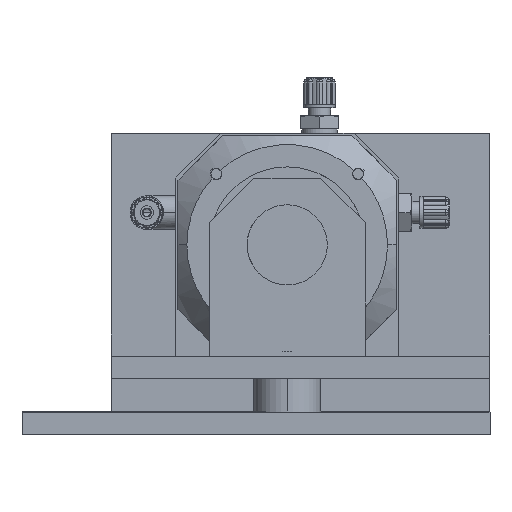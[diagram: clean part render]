
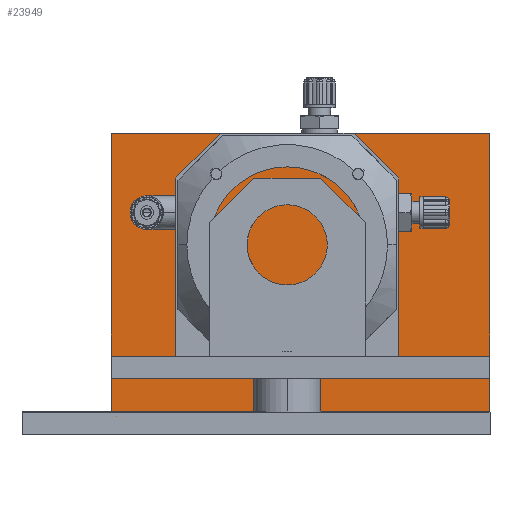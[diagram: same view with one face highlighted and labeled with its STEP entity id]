
A CAD part, left-side view. The second image highlights one B-rep face of the part: STEP entity #23949.
In plain terms, the highlighted planar face has unit normal (-1, 0, 0) as drawn and (0, -1, 0) by its records, which use the part's own axes.
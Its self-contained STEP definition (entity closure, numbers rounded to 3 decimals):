
#474 = CARTESIAN_POINT ( 'NONE',  ( 0., 0., 0. ) ) ;
#1717 = EDGE_CURVE ( 'NONE', #111293, #3110, #155261, .T. ) ;
#3110 = VERTEX_POINT ( 'NONE', #474 ) ;
#5024 = VECTOR ( 'NONE', #140284, 1000. ) ;
#9661 = ORIENTED_EDGE ( 'NONE', *, *, #150560, .F. ) ;
#22308 = PLANE ( 'NONE',  #138970 ) ;
#23182 = DIRECTION ( 'NONE',  ( 0., 0., -1. ) ) ;
#23949 = ADVANCED_FACE ( 'NONE', ( #62020 ), #22308, .F. ) ;
#24870 = CARTESIAN_POINT ( 'NONE',  ( 0., 0., 135. ) ) ;
#35491 = DIRECTION ( 'NONE',  ( 1., 0., 0. ) ) ;
#36400 = CARTESIAN_POINT ( 'NONE',  ( 170., 0., 0. ) ) ;
#42826 = VECTOR ( 'NONE', #170003, 1000. ) ;
#47888 = LINE ( 'NONE', #36400, #89188 ) ;
#48280 = CARTESIAN_POINT ( 'NONE',  ( 0., 0., 0. ) ) ;
#53314 = ORIENTED_EDGE ( 'NONE', *, *, #59603, .F. ) ;
#59603 = EDGE_CURVE ( 'NONE', #3110, #89615, #117098, .T. ) ;
#62020 = FACE_OUTER_BOUND ( 'NONE', #126641, .T. ) ;
#83378 = EDGE_CURVE ( 'NONE', #123321, #111293, #47888, .T. ) ;
#88029 = CARTESIAN_POINT ( 'NONE',  ( 170., 0., 135. ) ) ;
#89188 = VECTOR ( 'NONE', #23182, 1000. ) ;
#89615 = VERTEX_POINT ( 'NONE', #116540 ) ;
#110434 = VECTOR ( 'NONE', #35491, 1000. ) ;
#111293 = VERTEX_POINT ( 'NONE', #117849 ) ;
#113185 = ORIENTED_EDGE ( 'NONE', *, *, #83378, .F. ) ;
#116540 = CARTESIAN_POINT ( 'NONE',  ( 0., 0., 135. ) ) ;
#117098 = LINE ( 'NONE', #48280, #42826 ) ;
#117849 = CARTESIAN_POINT ( 'NONE',  ( 170., 0., 0. ) ) ;
#123321 = VERTEX_POINT ( 'NONE', #88029 ) ;
#126641 = EDGE_LOOP ( 'NONE', ( #53314, #150730, #113185, #9661 ) ) ;
#128190 = CARTESIAN_POINT ( 'NONE',  ( 0., 0., 0. ) ) ;
#129931 = DIRECTION ( 'NONE',  ( 0., 0., 1. ) ) ;
#138970 = AXIS2_PLACEMENT_3D ( 'NONE', #128190, #168742, #129931 ) ;
#140284 = DIRECTION ( 'NONE',  ( -1., 0., 0. ) ) ;
#146576 = LINE ( 'NONE', #24870, #110434 ) ;
#150560 = EDGE_CURVE ( 'NONE', #89615, #123321, #146576, .T. ) ;
#150730 = ORIENTED_EDGE ( 'NONE', *, *, #1717, .F. ) ;
#155261 = LINE ( 'NONE', #170230, #5024 ) ;
#168742 = DIRECTION ( 'NONE',  ( 0., 1., 0. ) ) ;
#170003 = DIRECTION ( 'NONE',  ( 0., 0., 1. ) ) ;
#170230 = CARTESIAN_POINT ( 'NONE',  ( 0., 0., 0. ) ) ;
